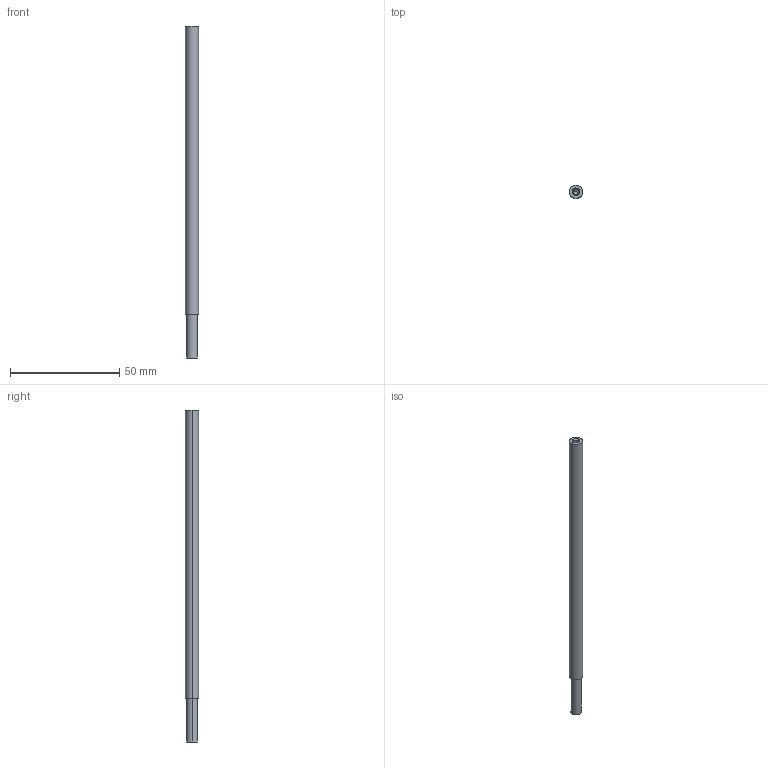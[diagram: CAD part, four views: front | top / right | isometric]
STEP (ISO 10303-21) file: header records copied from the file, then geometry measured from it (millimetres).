
FILE_DESCRIPTION(('CATIA V5 STEP Exchange','CAx-IF Rec.Pracs.--- Model Styling and Organization---1.4--- 2014-01-23','CAx-IF Rec.Pracs.---3D Tessellated Data Validation Properties---0.5---2014-09-14'),'2;1');
FILE_NAME('D:\CTA\NECTARCAM PROD\CTA-01 - Camera Module\CTA-0101 - Focal Plane Module\CTA-010104 - Mechanical Components\CTA-010104-010 - LG_Plate_Rod.stp','2025-10-15T09:31:02+00:00',('none'),('none'),'CATIA Version 5-6 Release 2018 SP5 HF4','CATIA V5 STEP AP242','none');
FILE_SCHEMA(('AP242_MANAGED_MODEL_BASED_3D_ENGINEERING_MIM_LF {1 0 10303 442 1 1 4}'));
Length unit declared in the file: millimetre
Products named in the file (1): CTA-010104-010
Bounding box: 6 x 6 x 152 mm (x, y, z)
Volume: 4006.5 mm3; surface area: 3041.8 mm2
Topology: 1 solids, 1 shells, 19 faces, 40 edges, 22 vertices
Faces by surface type: cone 8, cylinder 8, plane 3
Entity records: 453 total; most frequent: CARTESIAN_POINT 72, ORIENTED_EDGE 72, DIRECTION 62, EDGE_CURVE 36, AXIS2_PLACEMENT_3D 34, EDGE_LOOP 22, VERTEX_POINT 22, CIRCLE 20
